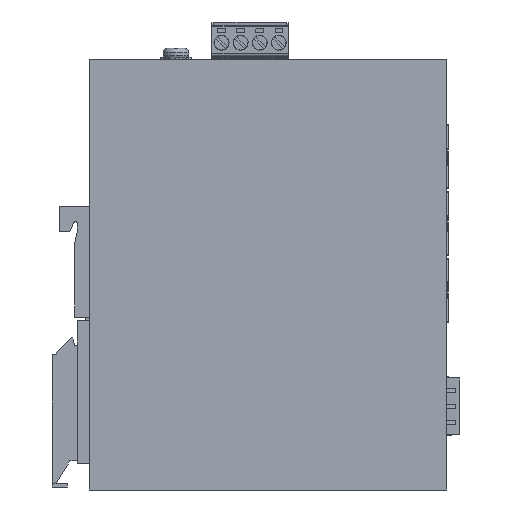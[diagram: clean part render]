
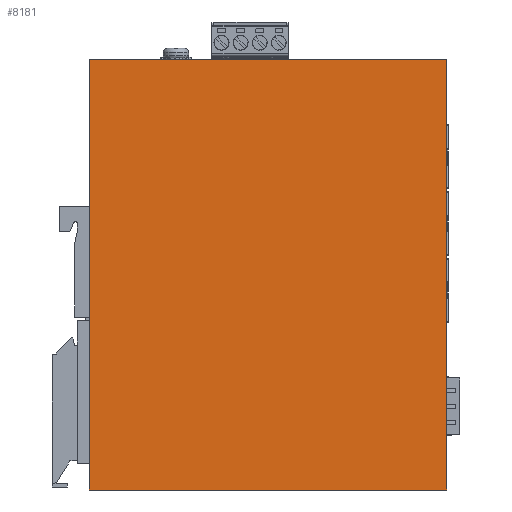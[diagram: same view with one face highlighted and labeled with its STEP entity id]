
A CAD part, left-side view. The second image highlights one B-rep face of the part: STEP entity #8181.
In plain terms, the highlighted planar face has unit normal (-1, 0, 0).
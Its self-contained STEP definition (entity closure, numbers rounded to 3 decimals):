
#158=CARTESIAN_POINT('',(-0.,95.,114.5));
#159=VERTEX_POINT('',#158);
#160=CARTESIAN_POINT('',(-0.,0.,114.5));
#161=VERTEX_POINT('',#160);
#162=CARTESIAN_POINT('',(-0.,95.,114.5));
#163=DIRECTION('',(0.,-1.,-0.));
#164=VECTOR('',#163,95.);
#165=LINE('',#162,#164);
#166=EDGE_CURVE('',#159,#161,#165,.T.);
#3764=CARTESIAN_POINT('',(-0.,95.,0.));
#3765=VERTEX_POINT('',#3764);
#3772=CARTESIAN_POINT('',(-0.,95.,114.5));
#3773=DIRECTION('',(0.,0.,-1.));
#3774=VECTOR('',#3773,114.5);
#3775=LINE('',#3772,#3774);
#3776=EDGE_CURVE('',#159,#3765,#3775,.T.);
#4648=CARTESIAN_POINT('',(0.,0.,0.));
#4649=VERTEX_POINT('',#4648);
#4665=CARTESIAN_POINT('',(-0.,-0.,114.5));
#4666=DIRECTION('',(0.,0.,-1.));
#4667=VECTOR('',#4666,114.5);
#4668=LINE('',#4665,#4667);
#4669=EDGE_CURVE('',#161,#4649,#4668,.T.);
#8165=CARTESIAN_POINT('',(-0.,95.002,114.5));
#8166=DIRECTION('',(-1.,-0.,-0.));
#8167=DIRECTION('',(-0.,-0.,1.));
#8168=AXIS2_PLACEMENT_3D('',#8165,#8166,#8167);
#8169=PLANE('',#8168);
#8170=ORIENTED_EDGE('',*,*,#166,.F.);
#8171=ORIENTED_EDGE('',*,*,#3776,.T.);
#8172=CARTESIAN_POINT('',(-0.,95.,-0.));
#8173=DIRECTION('',(0.,-1.,-0.));
#8174=VECTOR('',#8173,95.);
#8175=LINE('',#8172,#8174);
#8176=EDGE_CURVE('',#3765,#4649,#8175,.T.);
#8177=ORIENTED_EDGE('',*,*,#8176,.T.);
#8178=ORIENTED_EDGE('',*,*,#4669,.F.);
#8179=EDGE_LOOP('',(#8170,#8171,#8177,#8178));
#8180=FACE_BOUND('',#8179,.T.);
#8181=ADVANCED_FACE('',(#8180),#8169,.T.);
